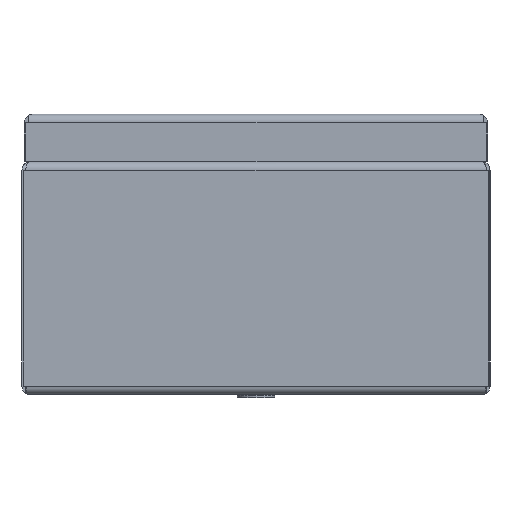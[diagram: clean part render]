
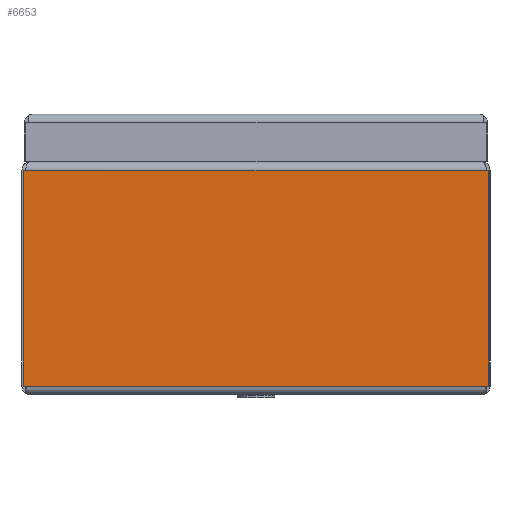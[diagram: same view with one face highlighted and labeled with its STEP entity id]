
A CAD part, left-side view. The second image highlights one B-rep face of the part: STEP entity #6653.
In plain terms, the highlighted planar face has unit normal (-1, 0, 0).
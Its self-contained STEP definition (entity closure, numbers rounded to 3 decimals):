
#187=B_SPLINE_CURVE_WITH_KNOTS('',3,(#11263,#11264,#11265,#11266),
 .UNSPECIFIED.,.F.,.F.,(4,4),(0.002,0.003),
 .UNSPECIFIED.);
#694=LINE('',#11227,#1342);
#699=LINE('',#11237,#1347);
#727=LINE('',#11380,#1375);
#728=LINE('',#11406,#1376);
#732=LINE('',#11424,#1380);
#734=LINE('',#11427,#1382);
#736=LINE('',#11431,#1384);
#1342=VECTOR('',#8957,1000.);
#1347=VECTOR('',#8972,1000.);
#1375=VECTOR('',#9038,1000.);
#1376=VECTOR('',#9041,1000.);
#1380=VECTOR('',#9049,1000.);
#1382=VECTOR('',#9053,1000.);
#1384=VECTOR('',#9059,1000.);
#2645=ORIENTED_EDGE('',*,*,#4032,.F.);
#2646=ORIENTED_EDGE('',*,*,#3981,.F.);
#2647=ORIENTED_EDGE('',*,*,#3976,.F.);
#2648=ORIENTED_EDGE('',*,*,#4030,.F.);
#2649=ORIENTED_EDGE('',*,*,#4028,.F.);
#2650=ORIENTED_EDGE('',*,*,#4022,.T.);
#2651=ORIENTED_EDGE('',*,*,#4020,.T.);
#2652=ORIENTED_EDGE('',*,*,#3987,.F.);
#3976=EDGE_CURVE('',#4740,#4737,#694,.T.);
#3981=EDGE_CURVE('',#4737,#4741,#699,.T.);
#3987=EDGE_CURVE('',#4746,#4743,#187,.F.);
#4020=EDGE_CURVE('',#4763,#4743,#727,.T.);
#4022=EDGE_CURVE('',#4765,#4763,#728,.T.);
#4028=EDGE_CURVE('',#4765,#4767,#732,.T.);
#4030=EDGE_CURVE('',#4767,#4740,#734,.T.);
#4032=EDGE_CURVE('',#4741,#4746,#736,.T.);
#4737=VERTEX_POINT('',#11220);
#4740=VERTEX_POINT('',#11226);
#4741=VERTEX_POINT('',#11238);
#4743=VERTEX_POINT('',#11254);
#4746=VERTEX_POINT('',#11262);
#4763=VERTEX_POINT('',#11371);
#4765=VERTEX_POINT('',#11407);
#4767=VERTEX_POINT('',#11421);
#5456=EDGE_LOOP('',(#2645,#2646,#2647,#2648,#2649,#2650,#2651,#2652));
#5932=FACE_BOUND('',#5456,.T.);
#6326=PLANE('',#7776);
#6653=ADVANCED_FACE('',(#5932),#6326,.T.);
#7776=AXIS2_PLACEMENT_3D('',#11432,#9060,#9061);
#8957=DIRECTION('',(0.,1.,0.));
#8972=DIRECTION('',(0.,1.,0.));
#9038=DIRECTION('',(0.,1.,0.));
#9041=DIRECTION('',(0.,1.,0.));
#9049=DIRECTION('',(0.,0.,-1.));
#9053=DIRECTION('',(0.,1.,0.));
#9059=DIRECTION('',(0.,0.,1.));
#9060=DIRECTION('',(-1.,0.,0.));
#9061=DIRECTION('',(0.,0.,1.));
#11220=CARTESIAN_POINT('',(-100.,73.599,1.6));
#11226=CARTESIAN_POINT('',(-100.,-73.599,1.6));
#11227=CARTESIAN_POINT('',(-100.,-509.6,1.6));
#11237=CARTESIAN_POINT('',(-100.,-509.6,1.6));
#11238=CARTESIAN_POINT('',(-100.,74.604,1.6));
#11254=CARTESIAN_POINT('',(-100.,73.797,70.8));
#11262=CARTESIAN_POINT('',(-100.,74.604,70.8));
#11263=CARTESIAN_POINT('',(-100.,73.797,70.8));
#11264=CARTESIAN_POINT('',(-100.,74.066,70.8));
#11265=CARTESIAN_POINT('',(-100.,74.335,70.8));
#11266=CARTESIAN_POINT('',(-100.,74.604,70.8));
#11371=CARTESIAN_POINT('',(-100.,-73.797,70.8));
#11380=CARTESIAN_POINT('',(-100.,-509.6,70.8));
#11406=CARTESIAN_POINT('',(-100.,-509.6,70.8));
#11407=CARTESIAN_POINT('',(-100.,-74.604,70.8));
#11421=CARTESIAN_POINT('',(-100.,-74.604,1.6));
#11424=CARTESIAN_POINT('',(-100.,-74.604,-1.2));
#11427=CARTESIAN_POINT('',(-100.,-509.6,1.6));
#11431=CARTESIAN_POINT('',(-100.,74.604,-1.2));
#11432=CARTESIAN_POINT('',(-100.,-509.6,-1.2));
